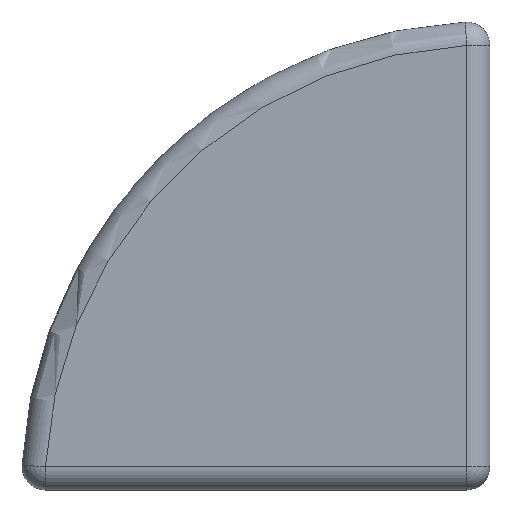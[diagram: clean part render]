
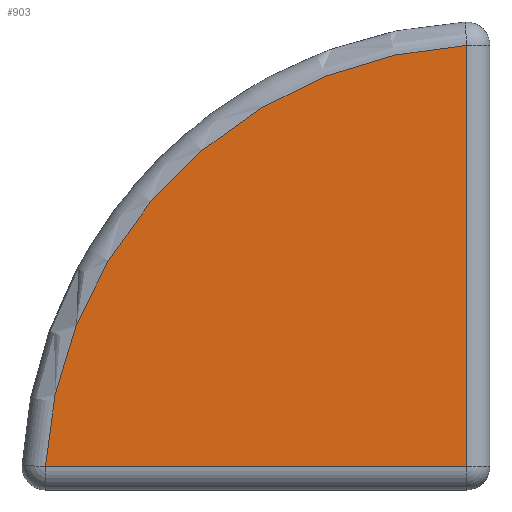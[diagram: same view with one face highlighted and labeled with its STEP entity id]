
A CAD part, front view. The second image highlights one B-rep face of the part: STEP entity #903.
In plain terms, the highlighted planar face has unit normal (0, -1, 0).
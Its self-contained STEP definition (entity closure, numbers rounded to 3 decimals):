
#39 = CARTESIAN_POINT ( 'NONE',  ( 0., -3., 0. ) ) ;
#117 = DIRECTION ( 'NONE',  ( 1., 0., 0. ) ) ;
#136 = CIRCLE ( 'NONE', #156, 19. ) ;
#144 = FACE_OUTER_BOUND ( 'NONE', #682, .T. ) ;
#149 = ORIENTED_EDGE ( 'NONE', *, *, #654, .T. ) ;
#156 = AXIS2_PLACEMENT_3D ( 'NONE', #392, #962, #480 ) ;
#162 = VERTEX_POINT ( 'NONE', #763 ) ;
#174 = ORIENTED_EDGE ( 'NONE', *, *, #358, .T. ) ;
#200 = CARTESIAN_POINT ( 'NONE',  ( 9., -3., -9. ) ) ;
#260 = VERTEX_POINT ( 'NONE', #855 ) ;
#265 = LINE ( 'NONE', #798, #474 ) ;
#287 = DIRECTION ( 'NONE',  ( 0., 1., 0. ) ) ;
#303 = AXIS2_PLACEMENT_3D ( 'NONE', #39, #287, #869 ) ;
#358 = EDGE_CURVE ( 'NONE', #511, #162, #265, .T. ) ;
#392 = CARTESIAN_POINT ( 'NONE',  ( 10., -3., -10. ) ) ;
#474 = VECTOR ( 'NONE', #723, 1000. ) ;
#480 = DIRECTION ( 'NONE',  ( 0., 0., 1. ) ) ;
#511 = VERTEX_POINT ( 'NONE', #636 ) ;
#526 = LINE ( 'NONE', #200, #783 ) ;
#636 = CARTESIAN_POINT ( 'NONE',  ( 9., -3., -9. ) ) ;
#654 = EDGE_CURVE ( 'NONE', #162, #260, #136, .T. ) ;
#660 = ORIENTED_EDGE ( 'NONE', *, *, #979, .T. ) ;
#682 = EDGE_LOOP ( 'NONE', ( #174, #149, #660 ) ) ;
#723 = DIRECTION ( 'NONE',  ( 0., 0., 1. ) ) ;
#763 = CARTESIAN_POINT ( 'NONE',  ( 9., -3., 8.974 ) ) ;
#777 = PLANE ( 'NONE',  #303 ) ;
#783 = VECTOR ( 'NONE', #117, 1000. ) ;
#798 = CARTESIAN_POINT ( 'NONE',  ( 9., -3., 8.974 ) ) ;
#855 = CARTESIAN_POINT ( 'NONE',  ( -8.974, -3., -9. ) ) ;
#869 = DIRECTION ( 'NONE',  ( 0., 0., 1. ) ) ;
#903 = ADVANCED_FACE ( 'NONE', ( #144 ), #777, .F. ) ;
#962 = DIRECTION ( 'NONE',  ( 0., -1., 0. ) ) ;
#979 = EDGE_CURVE ( 'NONE', #260, #511, #526, .T. ) ;
